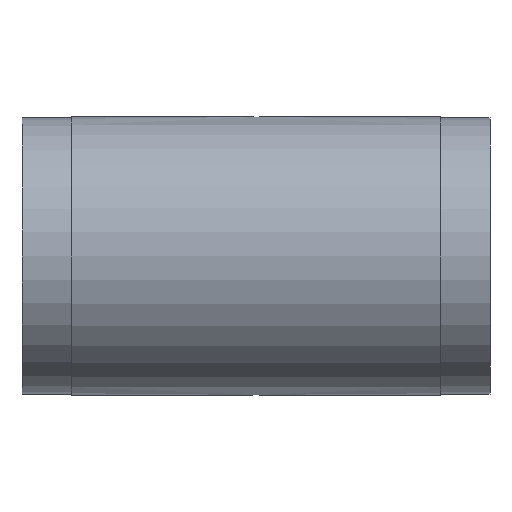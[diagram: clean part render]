
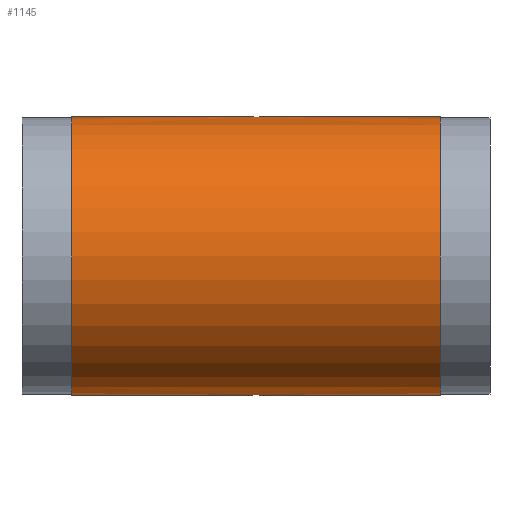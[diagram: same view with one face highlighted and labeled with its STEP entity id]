
A CAD part, front view. The second image highlights one B-rep face of the part: STEP entity #1145.
In plain terms, the highlighted cylindrical face has radius 22.5 mm (diameter 45 mm), a full revolution.
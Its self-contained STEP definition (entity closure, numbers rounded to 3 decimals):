
#18=B_SPLINE_CURVE_WITH_KNOTS('',3,(#1918,#1919,#1920,#1921,#1922,#1923,
#1924),.UNSPECIFIED.,.F.,.F.,(4,1,1,1,4),(0.,0.002,0.003,
0.005,0.006),.UNSPECIFIED.);
#19=B_SPLINE_CURVE_WITH_KNOTS('',3,(#1929,#1930,#1931,#1932,#1933,#1934,
#1935),.UNSPECIFIED.,.F.,.F.,(4,1,1,1,4),(0.,0.002,0.003,
0.005,0.006),.UNSPECIFIED.);
#20=B_SPLINE_CURVE_WITH_KNOTS('',3,(#1938,#1939,#1940,#1941,#1942,#1943,
#1944,#1945,#1946,#1947,#1948),.UNSPECIFIED.,.T.,.F.,(1,1,1,1,1,1,1,1,1,
1,1,1,1,1,1),(-0.004,-0.002,-0.001,
0.,0.001,0.002,0.004,0.005,
0.006,0.007,0.008,0.009,
0.011,0.012,0.013),.UNSPECIFIED.);
#21=B_SPLINE_CURVE_WITH_KNOTS('',3,(#1950,#1951,#1952,#1953,#1954,#1955,
#1956,#1957,#1958,#1959,#1960),.UNSPECIFIED.,.T.,.F.,(1,1,1,1,1,1,1,1,1,
1,1,1,1,1,1),(-0.004,-0.002,-0.001,
0.,0.001,0.002,0.004,0.005,
0.006,0.007,0.008,0.009,
0.011,0.012,0.013),.UNSPECIFIED.);
#109=LINE('',#1927,#197);
#110=LINE('',#1937,#198);
#197=VECTOR('',#1560,1000.);
#198=VECTOR('',#1561,1000.);
#410=ORIENTED_EDGE('',*,*,#668,.F.);
#411=ORIENTED_EDGE('',*,*,#669,.T.);
#412=ORIENTED_EDGE('',*,*,#670,.T.);
#413=ORIENTED_EDGE('',*,*,#671,.T.);
#414=ORIENTED_EDGE('',*,*,#672,.T.);
#415=ORIENTED_EDGE('',*,*,#673,.T.);
#416=ORIENTED_EDGE('',*,*,#674,.T.);
#417=ORIENTED_EDGE('',*,*,#667,.T.);
#667=EDGE_CURVE('',#809,#809,#899,.T.);
#668=EDGE_CURVE('',#810,#810,#900,.T.);
#669=EDGE_CURVE('',#811,#812,#18,.T.);
#670=EDGE_CURVE('',#812,#813,#109,.T.);
#671=EDGE_CURVE('',#813,#814,#19,.T.);
#672=EDGE_CURVE('',#814,#811,#110,.F.);
#673=EDGE_CURVE('',#815,#815,#20,.T.);
#674=EDGE_CURVE('',#816,#816,#21,.T.);
#809=VERTEX_POINT('',#1914);
#810=VERTEX_POINT('',#1917);
#811=VERTEX_POINT('',#1925);
#812=VERTEX_POINT('',#1926);
#813=VERTEX_POINT('',#1928);
#814=VERTEX_POINT('',#1936);
#815=VERTEX_POINT('',#1949);
#816=VERTEX_POINT('',#1961);
#899=CIRCLE('',#1286,22.5);
#900=CIRCLE('',#1288,22.5);
#953=EDGE_LOOP('',(#410));
#954=EDGE_LOOP('',(#411,#412,#413,#414));
#955=EDGE_LOOP('',(#415));
#956=EDGE_LOOP('',(#416));
#957=EDGE_LOOP('',(#417));
#1031=FACE_BOUND('',#953,.T.);
#1032=FACE_BOUND('',#954,.T.);
#1033=FACE_BOUND('',#955,.T.);
#1034=FACE_BOUND('',#956,.T.);
#1035=FACE_BOUND('',#957,.T.);
#1094=CYLINDRICAL_SURFACE('',#1287,22.5);
#1145=ADVANCED_FACE('',(#1031,#1032,#1033,#1034,#1035),#1094,.T.);
#1286=AXIS2_PLACEMENT_3D('',#1913,#1554,#1555);
#1287=AXIS2_PLACEMENT_3D('',#1915,#1556,#1557);
#1288=AXIS2_PLACEMENT_3D('',#1916,#1558,#1559);
#1554=DIRECTION('',(1.,0.,0.));
#1555=DIRECTION('',(0.,0.,-1.));
#1556=DIRECTION('',(1.,0.,0.));
#1557=DIRECTION('',(0.,0.,-1.));
#1558=DIRECTION('',(1.,0.,0.));
#1559=DIRECTION('',(0.,0.,-1.));
#1560=DIRECTION('',(1.,0.,0.));
#1561=DIRECTION('',(1.,0.,0.));
#1913=CARTESIAN_POINT('',(-29.8,0.,0.));
#1914=CARTESIAN_POINT('',(-29.8,0.,-22.5));
#1915=CARTESIAN_POINT('',(37.8,0.,0.));
#1916=CARTESIAN_POINT('',(29.8,0.,0.));
#1917=CARTESIAN_POINT('',(29.8,0.,-22.5));
#1918=CARTESIAN_POINT('',(-19.,22.411,2.));
#1919=CARTESIAN_POINT('',(-19.529,22.411,2.));
#1920=CARTESIAN_POINT('',(-20.564,22.456,1.567));
#1921=CARTESIAN_POINT('',(-21.217,22.522,0.002));
#1922=CARTESIAN_POINT('',(-20.566,22.456,-1.566));
#1923=CARTESIAN_POINT('',(-19.529,22.411,-2.));
#1924=CARTESIAN_POINT('',(-19.,22.411,-2.));
#1925=CARTESIAN_POINT('',(-19.,22.411,2.));
#1926=CARTESIAN_POINT('',(-19.,22.411,-2.));
#1927=CARTESIAN_POINT('',(37.8,22.411,-2.));
#1928=CARTESIAN_POINT('',(19.,22.411,-2.));
#1929=CARTESIAN_POINT('',(19.,22.411,-2.));
#1930=CARTESIAN_POINT('',(19.529,22.411,-2.));
#1931=CARTESIAN_POINT('',(20.564,22.456,-1.567));
#1932=CARTESIAN_POINT('',(21.217,22.522,-0.002));
#1933=CARTESIAN_POINT('',(20.566,22.456,1.566));
#1934=CARTESIAN_POINT('',(19.529,22.411,2.));
#1935=CARTESIAN_POINT('',(19.,22.411,2.));
#1936=CARTESIAN_POINT('',(19.,22.411,2.));
#1937=CARTESIAN_POINT('',(37.8,22.411,2.));
#1938=CARTESIAN_POINT('',(1.174,-1.177,-22.475));
#1939=CARTESIAN_POINT('',(1.663,0.,-22.513));
#1940=CARTESIAN_POINT('',(1.175,1.176,-22.475));
#1941=CARTESIAN_POINT('',(0.001,1.662,-22.437));
#1942=CARTESIAN_POINT('',(-1.175,1.176,-22.475));
#1943=CARTESIAN_POINT('',(-1.662,0.,-22.512));
#1944=CARTESIAN_POINT('',(-1.177,-1.174,-22.475));
#1945=CARTESIAN_POINT('',(-0.002,-1.662,-22.437));
#1946=CARTESIAN_POINT('',(1.174,-1.177,-22.475));
#1947=CARTESIAN_POINT('',(1.663,0.,-22.513));
#1948=CARTESIAN_POINT('',(1.175,1.176,-22.475));
#1949=CARTESIAN_POINT('',(1.5,0.,-22.5));
#1950=CARTESIAN_POINT('',(1.174,1.177,22.475));
#1951=CARTESIAN_POINT('',(1.663,0.,22.513));
#1952=CARTESIAN_POINT('',(1.175,-1.176,22.475));
#1953=CARTESIAN_POINT('',(0.001,-1.662,22.437));
#1954=CARTESIAN_POINT('',(-1.175,-1.176,22.475));
#1955=CARTESIAN_POINT('',(-1.662,0.,22.512));
#1956=CARTESIAN_POINT('',(-1.177,1.174,22.475));
#1957=CARTESIAN_POINT('',(-0.002,1.662,22.437));
#1958=CARTESIAN_POINT('',(1.174,1.177,22.475));
#1959=CARTESIAN_POINT('',(1.663,0.,22.513));
#1960=CARTESIAN_POINT('',(1.175,-1.176,22.475));
#1961=CARTESIAN_POINT('',(1.5,0.,22.5));
